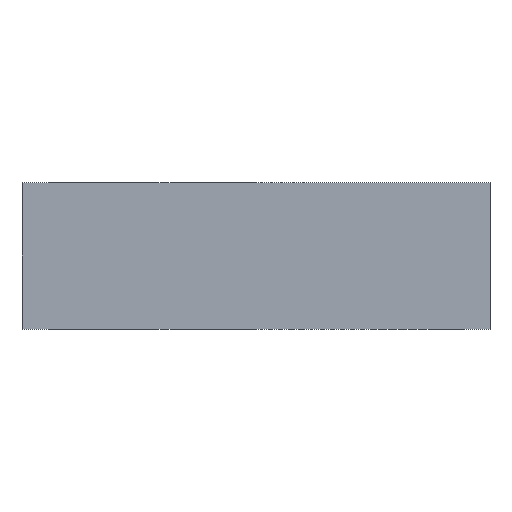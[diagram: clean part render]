
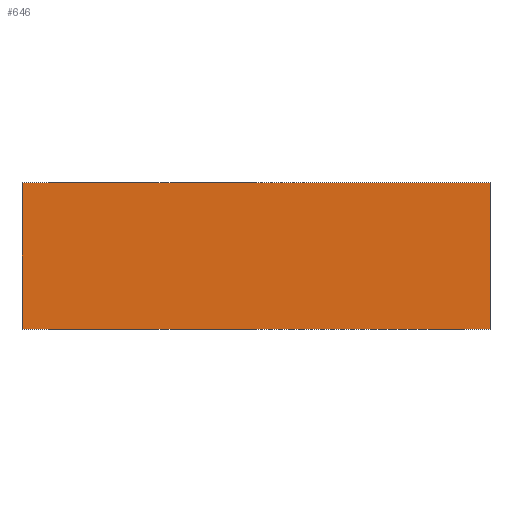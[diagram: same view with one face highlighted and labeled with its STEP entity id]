
A CAD part, front view. The second image highlights one B-rep face of the part: STEP entity #646.
In plain terms, the highlighted planar face has unit normal (0, -1, 0).
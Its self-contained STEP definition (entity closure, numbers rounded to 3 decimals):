
#22 = FACE_OUTER_BOUND ( 'NONE', #747, .T. ) ;
#114 = VECTOR ( 'NONE', #235, 1000. ) ;
#118 = LINE ( 'NONE', #250, #114 ) ;
#149 = LINE ( 'NONE', #232, #150 ) ;
#150 = VECTOR ( 'NONE', #292, 1000. ) ;
#153 = LINE ( 'NONE', #167, #154 ) ;
#154 = VECTOR ( 'NONE', #166, 1000. ) ;
#155 = LINE ( 'NONE', #294, #157 ) ;
#157 = VECTOR ( 'NONE', #236, 1000. ) ;
#166 = DIRECTION ( 'NONE',  ( 0., 0., -1. ) ) ;
#167 = CARTESIAN_POINT ( 'NONE',  ( 104., 0., 65. ) ) ;
#191 = CARTESIAN_POINT ( 'NONE',  ( -104., 0., 65. ) ) ;
#198 = VERTEX_POINT ( 'NONE', #465 ) ;
#206 = VERTEX_POINT ( 'NONE', #516 ) ;
#211 = CARTESIAN_POINT ( 'NONE',  ( 104., 0., 0. ) ) ;
#232 = CARTESIAN_POINT ( 'NONE',  ( -104., 0., 65. ) ) ;
#235 = DIRECTION ( 'NONE',  ( 0., 0., -1. ) ) ;
#236 = DIRECTION ( 'NONE',  ( 1., 0., 0. ) ) ;
#250 = CARTESIAN_POINT ( 'NONE',  ( -104., 0., 65. ) ) ;
#292 = DIRECTION ( 'NONE',  ( 1., 0., 0. ) ) ;
#294 = CARTESIAN_POINT ( 'NONE',  ( -104., 0., 0. ) ) ;
#445 = PLANE ( 'NONE',  #826 ) ;
#454 = VERTEX_POINT ( 'NONE', #211 ) ;
#465 = CARTESIAN_POINT ( 'NONE',  ( -104., 0., 0. ) ) ;
#484 = CARTESIAN_POINT ( 'NONE',  ( -104., 0., 65. ) ) ;
#487 = DIRECTION ( 'NONE',  ( 0., 1., 0. ) ) ;
#498 = DIRECTION ( 'NONE',  ( -1., 0., 0. ) ) ;
#512 = VERTEX_POINT ( 'NONE', #191 ) ;
#516 = CARTESIAN_POINT ( 'NONE',  ( 104., 0., 65. ) ) ;
#525 = ORIENTED_EDGE ( 'NONE', *, *, #855, .T. ) ;
#646 = ADVANCED_FACE ( 'NONE', ( #22 ), #445, .F. ) ;
#747 = EDGE_LOOP ( 'NONE', ( #903, #907, #901, #525 ) ) ;
#826 = AXIS2_PLACEMENT_3D ( 'NONE', #484, #487, #498 ) ;
#852 = EDGE_CURVE ( 'NONE', #512, #206, #149, .T. ) ;
#855 = EDGE_CURVE ( 'NONE', #512, #198, #118, .T. ) ;
#856 = EDGE_CURVE ( 'NONE', #198, #454, #155, .T. ) ;
#860 = EDGE_CURVE ( 'NONE', #206, #454, #153, .T. ) ;
#901 = ORIENTED_EDGE ( 'NONE', *, *, #852, .F. ) ;
#903 = ORIENTED_EDGE ( 'NONE', *, *, #856, .T. ) ;
#907 = ORIENTED_EDGE ( 'NONE', *, *, #860, .F. ) ;
